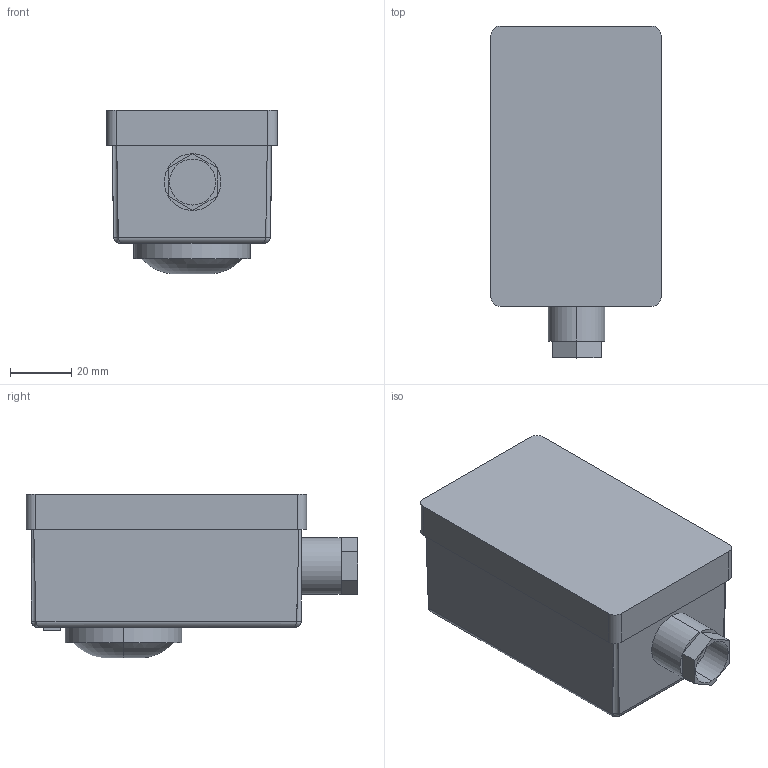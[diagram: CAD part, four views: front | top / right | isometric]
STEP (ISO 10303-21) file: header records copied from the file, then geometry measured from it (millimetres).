
FILE_DESCRIPTION (( 'STEP AP214' ), '1' );
FILE_NAME ('TA3.STEP', '2022-12-16T10:44:04', ( '' ), ( '' ), 'SwSTEP 2.0', 'SolidWorks 2022', '' );
FILE_SCHEMA (( 'AUTOMOTIVE_DESIGN' ));
Length unit declared in the file: millimetre
Products named in the file (1): TA3
Bounding box: 55.5 x 108.25 x 53.5 mm (x, y, z)
Volume: 214587.1 mm3; surface area: 24249.8 mm2
Topology: 1 solids, 1 shells, 56 faces, 126 edges, 78 vertices
Faces by surface type: plane 32, cylinder 14, torus 6, cone 4
Entity records: 1718 total; most frequent: CARTESIAN_POINT 429, DIRECTION 266, ORIENTED_EDGE 252, EDGE_CURVE 126, AXIS2_PLACEMENT_3D 99, VERTEX_POINT 78, LINE 68, VECTOR 68
